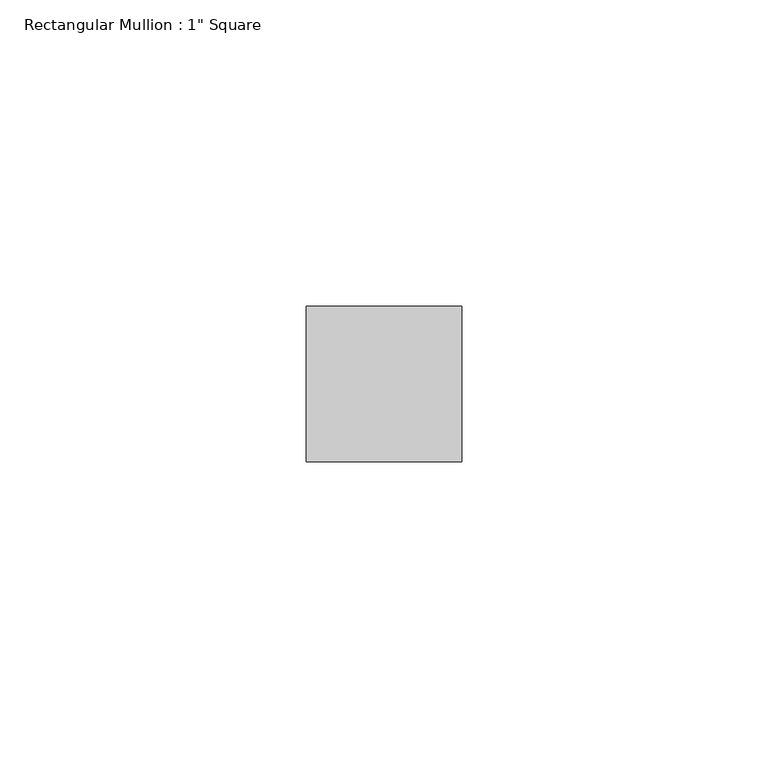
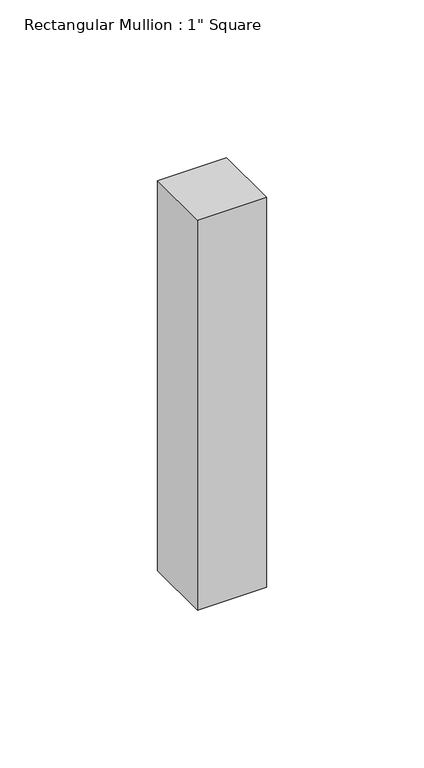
"""IFC4 building model written with IfcOpenShell, lengths in millimetres: member geometry."""

import ifcopenshell
import ifcopenshell.guid

model = None  # the IFC model being written
_history = None  # IfcOwnerHistory: only IFC2X3 demands one
_inside = {}  # id of a spatial element -> (the spatial element, [elements in it])
_under = {}  # id of a project, library or spatial element -> (it, [spatial elements below it])
_declared = {}  # id of a project -> (the project, [libraries it declares])
_typed = {}  # id of a type object -> (the type object, [elements of that type])
_made_of = {}  # id of a material, layer set ... -> (it, [elements and type objects made of it])


def new_model(schema):
    """Start an empty IFC model of exactly this schema.

    Asked for "IFC4X3", IfcOpenShell would pick the latest addendum, in which some entities
    have other attributes; the version numbers below select the first issue.
    IFC2X3 requires an IfcOwnerHistory on every rooted entity: one is made here for all.
    """
    global model, _history
    if schema == "IFC4X3":
        model = ifcopenshell.file(schema_version=(4, 3, 0, 0))
    else:
        model = ifcopenshell.file(schema=schema)
    _inside.clear()
    _under.clear()
    _declared.clear()
    _typed.clear()
    _made_of.clear()
    _history = None
    if model.schema == "IFC2X3":
        org = make("IfcOrganization", Name="unknown")
        user = make(
            "IfcPersonAndOrganization",
            ThePerson=make("IfcPerson", FamilyName="unknown"),
            TheOrganization=org,
        )
        app = make(
            "IfcApplication",
            ApplicationDeveloper=org,
            Version="unknown",
            ApplicationFullName="unknown",
            ApplicationIdentifier="unknown",
        )
        _history = make(
            "IfcOwnerHistory",
            OwningUser=user,
            OwningApplication=app,
            ChangeAction="ADDED",
            CreationDate=0,
        )
    return model


def make(cls, **values):
    """One entity of the class cls with the attributes given. An attribute that is None is left unset."""
    return model.create_entity(
        cls, **{name: value for name, value in values.items() if value is not None}
    )


def rooted(cls, **values):
    """An entity with a GlobalId (a new one), such as an element, a storey or a relation."""
    return make(cls, GlobalId=ifcopenshell.guid.new(), OwnerHistory=_history, **values)


def si_unit(unit_type, name, prefix=None):
    """IfcSIUnit, for example si_unit("LENGTHUNIT", "METRE", prefix="MILLI")."""
    return make("IfcSIUnit", UnitType=unit_type, Prefix=prefix, Name=name)


def assignment(units):
    """IfcUnitAssignment: the units of a project."""
    return None if units is None else make("IfcUnitAssignment", Units=units)


def point(xyz):
    """IfcCartesianPoint."""
    return None if xyz is None else make("IfcCartesianPoint", Coordinates=xyz)


def direction(xyz):
    """IfcDirection."""
    return None if xyz is None else make("IfcDirection", DirectionRatios=xyz)


def frame(location, z_axis=None, x_axis=None):
    """IfcAxis2Placement3D, a coordinate frame: its origin and axes. An axis left out is left unset."""
    return make(
        "IfcAxis2Placement3D",
        Location=point(location),
        Axis=direction(z_axis),
        RefDirection=direction(x_axis),
    )


def origin():
    """The frame at (0, 0, 0) with its axes left unset."""
    return frame((0.0, 0.0, 0.0))


def place(relative_to, where):
    """IfcLocalPlacement: puts the frame where relative to a parent placement (None: the world)."""
    return make(
        "IfcLocalPlacement", PlacementRelTo=relative_to, RelativePlacement=where
    )


def context(
    kind, dimensions, precision=None, world=None, true_north=None, identifier=None
):
    """IfcGeometricRepresentationContext, for example the 3D "Model" context."""
    return make(
        "IfcGeometricRepresentationContext",
        ContextIdentifier=identifier,
        ContextType=kind,
        CoordinateSpaceDimension=dimensions,
        Precision=precision,
        WorldCoordinateSystem=world,
        TrueNorth=true_north,
    )


def project(units=None, contexts=None):
    """IfcProject with its units and contexts."""
    return rooted(
        "IfcProject",
        Name="project",
        RepresentationContexts=contexts,
        UnitsInContext=assignment(units),
    )


def spatial(cls, under=None, at=None, **own):
    """A site, building, storey or space (cls), placed at a placement, below another one or the project."""
    s = rooted(cls, ObjectPlacement=at, **own)
    if under is not None:
        _under.setdefault(under.id(), (under, []))[1].append(s)
    return s


def polyline(points):
    """IfcPolyline through the points."""
    return make("IfcPolyline", Points=[point(p) for p in points])


def outline(outer, holes=None, kind="AREA"):
    """IfcArbitraryClosedProfileDef: a profile drawn as a closed curve; with holes, ...WithVoids."""
    if holes is None:
        return make("IfcArbitraryClosedProfileDef", ProfileType=kind, OuterCurve=outer)
    return make(
        "IfcArbitraryProfileDefWithVoids",
        ProfileType=kind,
        OuterCurve=outer,
        InnerCurves=holes,
    )


def extrude(swept, where, along, depth):
    """IfcExtrudedAreaSolid: the profile swept, set in the frame where, extruded along a direction by depth."""
    return make(
        "IfcExtrudedAreaSolid",
        SweptArea=swept,
        Position=where,
        ExtrudedDirection=direction(along),
        Depth=depth,
    )


def shape(context_of_items, identifier, shape_type, items):
    """IfcShapeRepresentation: the items that make up one representation, for example the "Body"."""
    return make(
        "IfcShapeRepresentation",
        ContextOfItems=context_of_items,
        RepresentationIdentifier=identifier,
        RepresentationType=shape_type,
        Items=items,
    )


def source(mapping_origin, context_of_items, identifier, shape_type, items):
    """IfcRepresentationMap: a shape defined once, which mapped items show again and again."""
    return make(
        "IfcRepresentationMap",
        MappingOrigin=mapping_origin,
        MappedRepresentation=shape(context_of_items, identifier, shape_type, items),
    )


def transform(
    local_origin,
    x_axis=None,
    y_axis=None,
    z_axis=None,
    scale=None,
    scale2=None,
    scale3=None,
    uniform=True,
):
    """IfcCartesianTransformationOperator3D, or its non-uniform kind. x_axis, y_axis, z_axis: its Axis1, 2, 3."""
    if uniform:
        return make(
            "IfcCartesianTransformationOperator3D",
            Axis1=direction(x_axis),
            Axis2=direction(y_axis),
            LocalOrigin=point(local_origin),
            Scale=scale,
            Axis3=direction(z_axis),
        )
    return make(
        "IfcCartesianTransformationOperator3DnonUniform",
        Axis1=direction(x_axis),
        Axis2=direction(y_axis),
        LocalOrigin=point(local_origin),
        Scale=scale,
        Axis3=direction(z_axis),
        Scale2=scale2,
        Scale3=scale3,
    )


def mapped(mapping_source, mapping_target):
    """IfcMappedItem: shows the shape of a source again, moved by a transform."""
    return make(
        "IfcMappedItem", MappingSource=mapping_source, MappingTarget=mapping_target
    )


def made_of(thing, what):
    """Note that an element or type object is made of a material, layer set ...; save() writes the relation."""
    if what is not None:
        _made_of.setdefault(what.id(), (what, []))[1].append(thing)
    return thing


def element(
    cls,
    number,
    at=None,
    inside=None,
    cuts=None,
    type_object=None,
    material=None,
    context=None,
    identifier="Body",
    shape_type=None,
    held_by="IfcProductDefinitionShape",
    body=None,
    shapes=None,
    **own,
):
    """One element of the class cls, such as IfcWall. Its Tag is "e" and its number.

    at: its placement. inside: the storey or other place that contains it. cuts: it is an
    opening in that element (IfcRelVoidsElement). A single representation is given by context,
    identifier, shape_type and body (its items); several are given by shapes. held_by: the class
    of the entity that holds the representations. save() writes the other relations.
    """
    e = rooted(cls, Tag="e%d" % number, ObjectPlacement=at, **own)
    if body is not None:
        shapes = [shape(context, identifier, shape_type, body)]
    if shapes is not None:
        e.Representation = make(held_by, Representations=shapes)
    if inside is not None:
        _inside.setdefault(inside.id(), (inside, []))[1].append(e)
    if cuts is not None:
        rooted(
            "IfcRelVoidsElement", RelatingBuildingElement=cuts, RelatedOpeningElement=e
        )
    if type_object is not None:
        _typed.setdefault(type_object.id(), (type_object, []))[1].append(e)
    return made_of(e, material)


def aggregate(whole, parts):
    """IfcRelAggregates: a whole, such as a stair, and the parts it consists of."""
    return rooted("IfcRelAggregates", RelatingObject=whole, RelatedObjects=parts)


def save(model, path):
    """Write the relations noted so far, then the file.

    IfcRelAggregates (storeys below a building ...), IfcRelContainedInSpatialStructure (elements
    in a storey), IfcRelDefinesByType, IfcRelAssociatesMaterial and IfcRelDeclares: one each for
    every whole, place, type object, material and project.
    """
    for whole, parts in _under.values():
        aggregate(whole, parts)
    for where, things in _inside.values():
        rooted(
            "IfcRelContainedInSpatialStructure",
            RelatedElements=things,
            RelatingStructure=where,
        )
    for kind, things in _typed.values():
        rooted("IfcRelDefinesByType", RelatedObjects=things, RelatingType=kind)
    for what, things in _made_of.values():
        rooted("IfcRelAssociatesMaterial", RelatedObjects=things, RelatingMaterial=what)
    for by, libraries in _declared.values():
        rooted("IfcRelDeclares", RelatingContext=by, RelatedDefinitions=libraries)
    model.write(path)


def member_5b501c0e(model_context):
    return source(origin(), model_context, "Body", "SweptSolid", [
        extrude(outline(polyline([(12.7, 12.7), (12.7, -12.7), (-12.7, -12.7), (-12.7, 12.7), (12.7, 12.7)])), frame((0.0, 0.0, -151.1473327), z_axis=(0.0, 0.0, 1.0), x_axis=(1.0, 0.0, 0.0)), (0.0, 0.0, 1.0), 151.1473327),
    ])


if __name__ == "__main__":
    model = new_model("IFC4")
    model_context = context("Model", 3, world=origin())
    ifc_project = project(units=[si_unit("LENGTHUNIT", "METRE", prefix="MILLI")], contexts=[model_context])
    site = spatial("IfcSite", under=ifc_project)
    building = spatial("IfcBuilding", under=site)
    placement = place(None, origin())
    member_shape = member_5b501c0e(model_context)
    element("IfcMember", 1, ObjectType="Rectangular Mullion : 1\" Square", at=placement, inside=building, context=model_context, shape_type="MappedRepresentation", body=[
        mapped(member_shape, transform((0.0, 0.0, 0.0), x_axis=(1.0, 0.0, 0.0), y_axis=(0.0, 1.0, 0.0), z_axis=(0.0, 0.0, 1.0))),
    ])
    save(model, "model.ifc")
